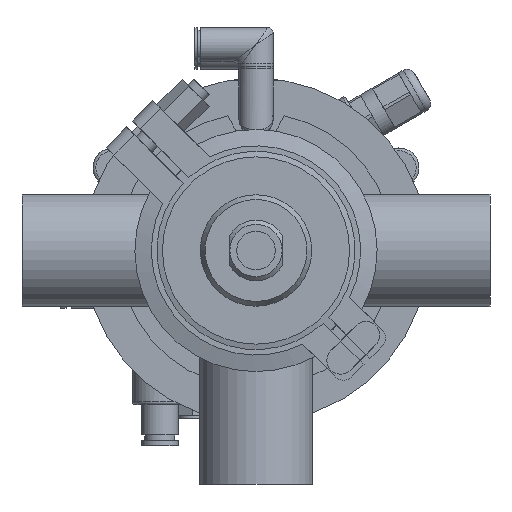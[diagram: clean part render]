
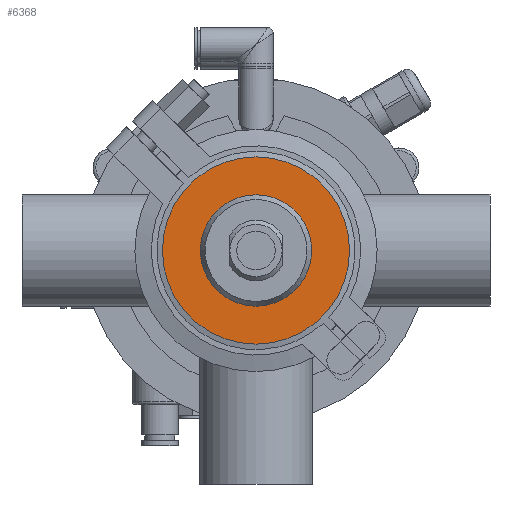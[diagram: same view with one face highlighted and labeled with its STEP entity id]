
A CAD part, front view. The second image highlights one B-rep face of the part: STEP entity #6368.
In plain terms, the highlighted planar face has unit normal (0, -1, 0).
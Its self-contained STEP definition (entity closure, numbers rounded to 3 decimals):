
#1244 = ORIENTED_EDGE ( 'NONE', *, *, #24948, .F. ) ;
#1960 = CARTESIAN_POINT ( 'NONE',  ( 0., -13., 0. ) ) ;
#2180 = EDGE_LOOP ( 'NONE', ( #1244 ) ) ;
#6368 = ADVANCED_FACE ( 'NONE', ( #38409, #24231 ), #57718, .T. ) ;
#7741 = CARTESIAN_POINT ( 'NONE',  ( 0., -13., 20.25 ) ) ;
#9230 = DIRECTION ( 'NONE',  ( 0., 0., 1. ) ) ;
#9768 = CARTESIAN_POINT ( 'NONE',  ( 0., -13., 0. ) ) ;
#12576 = DIRECTION ( 'NONE',  ( 0., 0., 1. ) ) ;
#14106 = DIRECTION ( 'NONE',  ( 0., 0., -1. ) ) ;
#22120 = EDGE_LOOP ( 'NONE', ( #57189 ) ) ;
#23642 = VERTEX_POINT ( 'NONE', #58080 ) ;
#23926 = CARTESIAN_POINT ( 'NONE',  ( -34., -13., 0. ) ) ;
#24231 = FACE_OUTER_BOUND ( 'NONE', #2180, .T. ) ;
#24948 = EDGE_CURVE ( 'NONE', #23642, #23642, #33561, .T. ) ;
#28002 = DIRECTION ( 'NONE',  ( 0., -1., 0. ) ) ;
#28793 = DIRECTION ( 'NONE',  ( 0., 1., 0. ) ) ;
#31158 = VERTEX_POINT ( 'NONE', #7741 ) ;
#33466 = AXIS2_PLACEMENT_3D ( 'NONE', #23926, #28002, #14106 ) ;
#33561 = CIRCLE ( 'NONE', #39622, 34. ) ;
#35666 = DIRECTION ( 'NONE',  ( 0., 1., 0. ) ) ;
#37494 = AXIS2_PLACEMENT_3D ( 'NONE', #1960, #28793, #9230 ) ;
#38409 = FACE_BOUND ( 'NONE', #22120, .T. ) ;
#39622 = AXIS2_PLACEMENT_3D ( 'NONE', #9768, #35666, #12576 ) ;
#41576 = CIRCLE ( 'NONE', #37494, 20.25 ) ;
#48838 = EDGE_CURVE ( 'NONE', #31158, #31158, #41576, .T. ) ;
#57189 = ORIENTED_EDGE ( 'NONE', *, *, #48838, .T. ) ;
#57718 = PLANE ( 'NONE',  #33466 ) ;
#58080 = CARTESIAN_POINT ( 'NONE',  ( 0., -13., 34. ) ) ;
